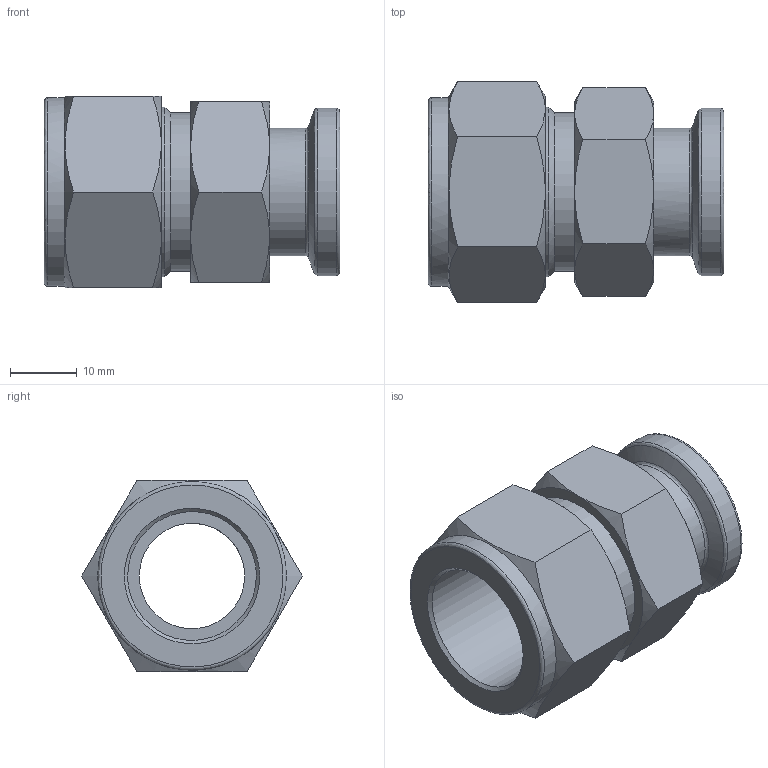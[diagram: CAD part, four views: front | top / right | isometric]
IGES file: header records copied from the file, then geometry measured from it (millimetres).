
Global section: file name: SSFA-12-12SA; native system: Autodesk Inventor 2016; preprocessor: unknown; author: DESIGNPC2; date: 20160312.145658; units: millimetre
Bounding box: 44.19 x 33 x 28.57 mm (x, y, z)
Volume: 14084.3 mm3; surface area: 7907.1 mm2
Topology: 1 solids, 1 shells, 53 faces, 147 edges, 101 vertices
Faces by surface type: bspline 53
